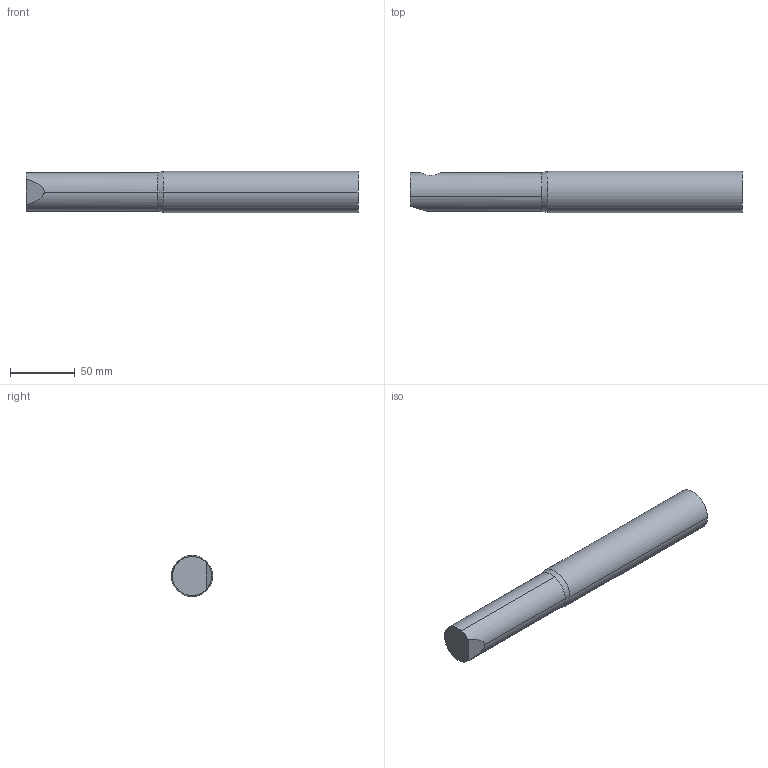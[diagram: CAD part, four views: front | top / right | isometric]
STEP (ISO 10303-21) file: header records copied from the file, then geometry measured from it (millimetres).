
FILE_DESCRIPTION( (''), '2;1');
FILE_NAME ('SY-2080-13_TH-32251-A.stp','2022-04-09T13:45:19',(''),(''),'spGate 18.9.3 (****-****-****-****)','','');
FILE_SCHEMA (('AUTOMOTIVE_DESIGN'));
Length unit declared in the file: millimetre
Products named in the file (2): Assembly; SY-2080-13_TH-32251-A-prt0
Assembly tree (1 placements, depth 2):
  Assembly
    SY-2080-13_TH-32251-A-prt0
Bounding box: 256 x 32 x 32 mm (x, y, z)
Volume: 175106.4 mm3; surface area: 34168.1 mm2
Topology: 1 solids, 1 shells, 24 faces, 54 edges, 31 vertices
Faces by surface type: bspline 12, cylinder 8, plane 4
Entity records: 1250 total; most frequent: CARTESIAN_POINT 350, ORIENTED_EDGE 100, DIRECTION 81, COLOUR_RGB 75, PRESENTATION_STYLE_ASSIGNMENT 75, STYLED_ITEM 75, EDGE_CURVE 50, DRAUGHTING_PRE_DEFINED_CURVE_FONT 50
